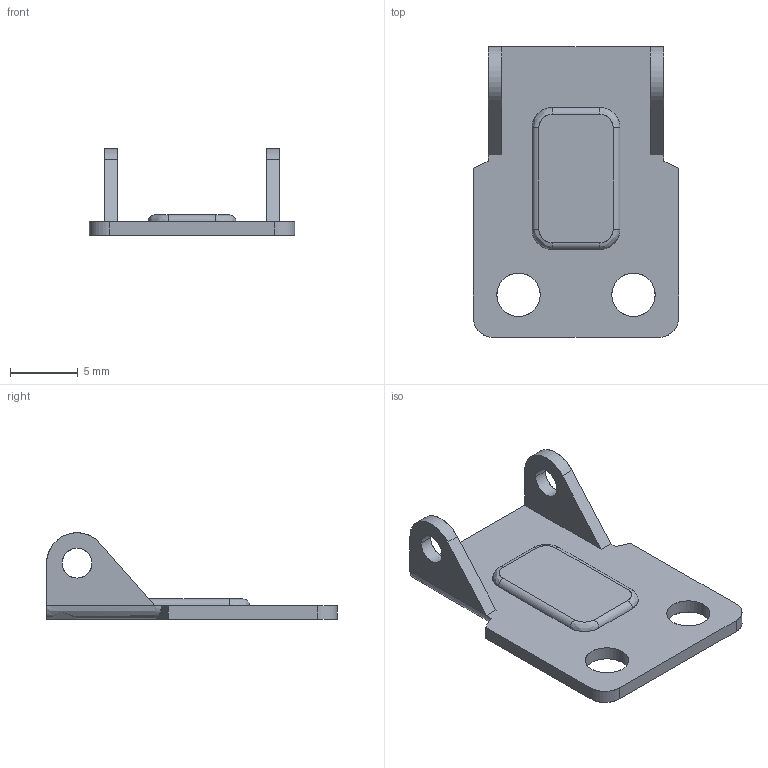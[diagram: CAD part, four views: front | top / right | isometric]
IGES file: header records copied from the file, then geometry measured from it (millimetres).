
Start section: SolidWorks IGES FILE using analytic representation for surfaces
Global section: file name: C:\Documents and Settings\lecoutey\Bureau\GO 17\17.020.10.IGS; native system: SolidWorks 2004 by SolidWorks Corporation; preprocessor: Version 5.3; author: lecoutey; date: 050329.093229; units: millimetre
Bounding box: 15.2 x 21.5 x 6.4 mm (x, y, z)
Surface area: 810.3 mm2 (no closed solid volume)
Topology: 0 solids, 0 shells, 46 faces, 676 edges, 676 vertices
Faces by surface type: bspline 24, revolution 22
